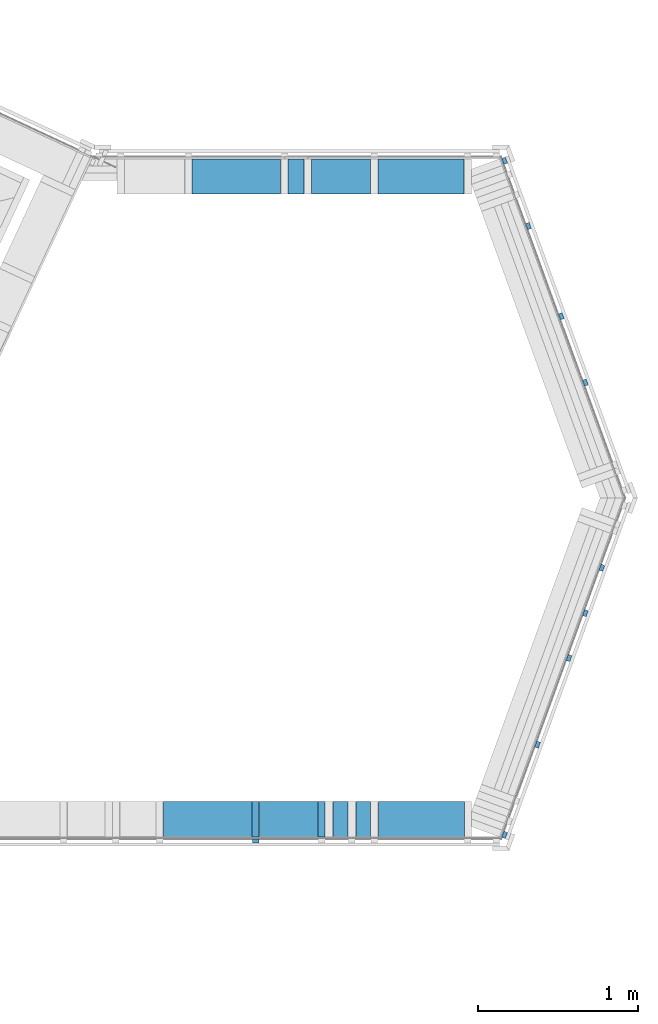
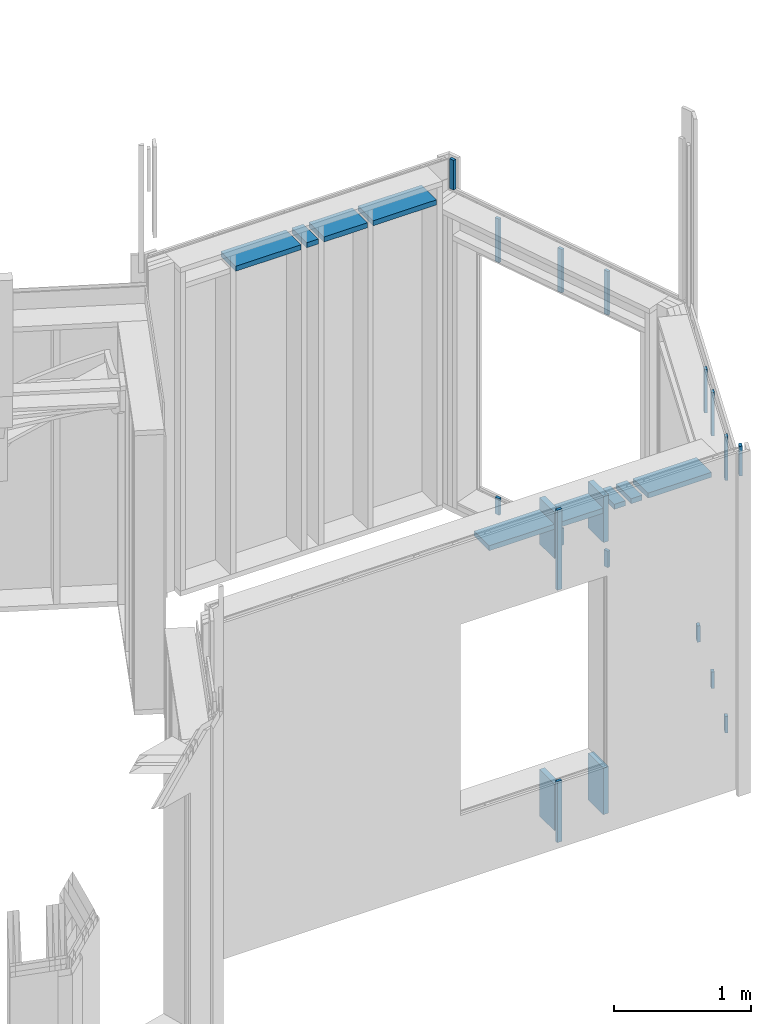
# One storey, part 22 of 34: 29 members.
"""IFC2X3 building model written with IfcOpenShell, lengths in metres."""

from ifc_helpers import new_model, si_unit, direction, frame, origin_with_axes, place, context, subcontext, project, spatial, faceted_brep, material, element, save


model = new_model("IFC2X3")

# Units and contexts
model_context = context("Model", 3, precision=1e-06, world=origin_with_axes(), true_north=direction((0.0, 1.0, 0.0)))
body_context = subcontext(model_context, "Body", "Model", "MODEL_VIEW")
ifc_project = project(units=[si_unit("LENGTHUNIT", "METRE"), si_unit("AREAUNIT", "SQUARE_METRE"), si_unit("VOLUMEUNIT", "CUBIC_METRE"), si_unit("PLANEANGLEUNIT", "RADIAN")], contexts=[model_context])

# Site, building, storey
site_placement = place(None, origin_with_axes())
site = spatial("IfcSite", under=ifc_project, at=site_placement, CompositionType="ELEMENT")
building_placement = place(site_placement, origin_with_axes())
building = spatial("IfcBuilding", under=site, at=building_placement, Name="Building 1", CompositionType="ELEMENT")
storey_placement = place(building_placement, origin_with_axes())
storey = spatial("IfcBuildingStorey", under=building, at=storey_placement, Name="Rez de chaussée", CompositionType="ELEMENT", Elevation=0.0)

# Members
ifc_material = material(Name="Epicéa C24")
member_1_placement = place(storey_placement, frame((16.2708032, -0.33322, 2.975), z_axis=(0.0, -1.0, 0.0), x_axis=(0.0, 0.0, -1.0)))
element("IfcMember", 1, at=member_1_placement, inside=storey, material=ifc_material, Name="latte 27/40", context=body_context, shape_type="Brep", body=[
    faceted_brep([(0.715, -0.02, -0.012), (0.715, -0.02, 0.012), (0.0, -0.02, 0.012), (0.0, -0.02, -0.012), (0.715, 0.02, -0.012), (0.0, 0.02, -0.012), (0.715, 0.02, 0.012), (0.0, 0.02, 0.012)], [[[0, 1, 2, 3]], [[4, 0, 3, 5]], [[6, 4, 5, 7]], [[1, 6, 7, 2]], [[6, 1, 0, 4]], [[2, 7, 5, 3]]]),
])
member_2_placement = place(storey_placement, frame((17.8264634, 3.9151873, 2.98), z_axis=(0.9396926, 0.3420201, 0.0), x_axis=(0.0, 0.0, -1.0)))
element("IfcMember", 2, at=member_2_placement, inside=storey, material=ifc_material, Name="latte chantier", context=body_context, shape_type="Brep", body=[
    faceted_brep([(0.0, 0.02, -0.012), (0.0, -0.02, -0.012), (0.0, -0.02, 0.012), (0.0, 0.02, 0.012), (0.265, -0.02, -0.012), (0.265, -0.02, 0.012), (0.265, 0.02, -0.012), (0.265, 0.02, 0.012)], [[[0, 1, 2, 3]], [[2, 1, 4, 5]], [[1, 0, 6, 4]], [[6, 7, 5, 4]], [[3, 2, 5, 7]], [[0, 3, 7, 6]]]),
])
member_3_placement = place(storey_placement, frame((16.6605365, -0.19822, 2.807), z_axis=(0.0, -1.0, 0.0), x_axis=(-1.0, 0.0, 0.0)))
element("IfcMember", 3, at=member_3_placement, inside=storey, material=ifc_material, Name="Montant", context=body_context, shape_type="Brep", body=[
    faceted_brep([(0.0, 0.0225, -0.11), (0.0, -0.0225, -0.11), (0.0, -0.0225, 0.11), (0.0, 0.0225, 0.11), (0.3642333, -0.0225, -0.11), (0.3642333, -0.0225, 0.11), (0.3642333, 0.0225, -0.11), (0.3642333, 0.0225, 0.11)], [[[0, 1, 2, 3]], [[2, 1, 4, 5]], [[1, 0, 6, 4]], [[5, 4, 6, 7]], [[3, 2, 5, 7]], [[0, 3, 7, 6]]]),
])
member_4_placement = place(storey_placement, frame((17.9747047, 3.5078977, 2.65), z_axis=(0.9396926, 0.3420201, 0.0), x_axis=(0.0, 0.0, -1.0)))
element("IfcMember", 4, at=member_4_placement, inside=storey, material=ifc_material, Name="latte 27/40", context=body_context, shape_type="Brep", body=[
    faceted_brep([(0.39, 0.02, 0.012), (0.39, -0.02, 0.012), (0.39, -0.02, -0.012), (0.39, 0.02, -0.012), (0.0, -0.02, 0.012), (0.0, -0.02, -0.012), (0.0, 0.02, -0.012), (0.0, 0.02, 0.012)], [[[0, 1, 2, 3]], [[2, 1, 4, 5]], [[3, 2, 5, 6]], [[1, 0, 7, 4]], [[4, 7, 6, 5]], [[0, 3, 6, 7]]]),
])
for number, where, z_axis, x_axis, name in (
    (5, (16.6830365, -0.19822, 0.507), (0.0, -1.0, 0.0), (0.0, 0.0, -1.0), "Montant"),
    (6, (16.2708032, -0.19822, 0.507), (0.0, -1.0, 0.0), (0.0, 0.0, -1.0), "Montant"),
):
    element("IfcMember", number, at=place(storey_placement, frame(where, z_axis=z_axis, x_axis=x_axis)), inside=storey, material=ifc_material, Name=name, context=body_context, shape_type="Brep", body=[
        faceted_brep([(0.417, -0.0225, -0.11), (0.417, 0.0225, -0.11), (0.417, 0.0225, 0.11), (0.417, -0.0225, 0.11), (0.0, -0.0225, 0.11), (0.0, -0.0225, -0.11), (0.0, 0.0225, -0.11), (0.0, 0.0225, 0.11)], [[[0, 1, 2, 3]], [[0, 3, 4, 5]], [[1, 0, 5, 6]], [[2, 1, 6, 7]], [[3, 2, 7, 4]], [[4, 7, 6, 5]]]),
    ])
member_5_placement = place(storey_placement, frame((16.6830365, -0.19822, 2.935), z_axis=(0.0, -1.0, 0.0), x_axis=(0.0, 0.0, -1.0)))
element("IfcMember", 7, at=member_5_placement, inside=storey, material=ifc_material, Name="Montant", context=body_context, shape_type="Brep", body=[
    faceted_brep([(0.0, 0.0225, 0.11), (0.0, -0.0225, 0.11), (0.415, -0.0225, 0.11), (0.415, 0.0225, 0.11), (0.415, 0.0225, -0.11), (0.0, 0.0225, -0.11), (0.415, -0.0225, -0.11), (0.0, -0.0225, -0.11)], [[[0, 1, 2, 3]], [[3, 4, 5, 0]], [[4, 6, 7, 5]], [[6, 2, 1, 7]], [[2, 6, 4, 3]], [[1, 0, 5, 7]]]),
])
member_6_placement = place(storey_placement, frame((16.5717756, 3.8177799, 2.807), z_axis=(0.0, -1.0, 0.0), x_axis=(-1.0, 0.0, 0.0)))
element("IfcMember", 8, at=member_6_placement, inside=storey, material=ifc_material, Name="Montant", context=body_context, shape_type="Brep", body=[
    faceted_brep([(0.0975975, -0.0225, 0.11), (0.0975975, -0.0225, -0.11), (0.0975975, 0.0225, -0.11), (0.0975975, 0.0225, 0.11), (0.0, -0.0225, -0.11), (0.0, 0.0225, -0.11), (0.0, -0.0225, 0.11), (0.0, 0.0225, 0.11)], [[[0, 1, 2, 3]], [[2, 1, 4, 5]], [[1, 0, 6, 4]], [[5, 4, 6, 7]], [[3, 2, 5, 7]], [[0, 3, 7, 6]]]),
])
member_7_placement = place(storey_placement, frame((18.3305767, 1.0894122, 2.65), z_axis=(0.9396926, -0.3420201, 0.0), x_axis=(0.0, 0.0, -1.0)))
element("IfcMember", 9, at=member_7_placement, inside=storey, material=ifc_material, Name="latte 27/40", context=body_context, shape_type="Brep", body=[
    faceted_brep([(0.0, -0.02, 0.012), (0.0, 0.02, 0.012), (0.0, 0.02, -0.012), (0.0, -0.02, -0.012), (0.39, -0.02, 0.012), (0.39, 0.02, 0.012), (0.39, -0.02, -0.012), (0.39, 0.02, -0.012)], [[[0, 1, 2, 3]], [[4, 5, 1, 0]], [[6, 4, 0, 3]], [[5, 7, 2, 1]], [[7, 6, 3, 2]], [[5, 4, 6, 7]]]),
])
member_8_placement = place(storey_placement, frame((16.8483032, -0.19822, 2.807), z_axis=(0.0, -1.0, 0.0), x_axis=(-1.0, 0.0, 0.0)))
element("IfcMember", 10, at=member_8_placement, inside=storey, material=ifc_material, Name="Montant", context=body_context, shape_type="Brep", body=[
    faceted_brep([(0.0, -0.0225, 0.11), (0.0, 0.0225, 0.11), (0.0, 0.0225, -0.11), (0.0, -0.0225, -0.11), (0.0947667, 0.0225, 0.11), (0.0947667, 0.0225, -0.11), (0.0947667, -0.0225, 0.11), (0.0947667, -0.0225, -0.11)], [[[0, 1, 2, 3]], [[2, 1, 4, 5]], [[1, 0, 6, 4]], [[5, 4, 6, 7]], [[3, 2, 5, 7]], [[0, 3, 7, 6]]]),
])
member_9_placement = place(storey_placement, frame((16.2708032, -0.19822, 2.935), z_axis=(0.0, -1.0, 0.0), x_axis=(0.0, 0.0, -1.0)))
element("IfcMember", 11, at=member_9_placement, inside=storey, material=ifc_material, Name="Montant", context=body_context, shape_type="Brep", body=[
    faceted_brep([(0.0, 0.0225, 0.11), (0.0, -0.0225, 0.11), (0.415, -0.0225, 0.11), (0.415, 0.0225, 0.11), (0.415, 0.0225, -0.11), (0.0, 0.0225, -0.11), (0.415, -0.0225, -0.11), (0.0, -0.0225, -0.11)], [[[0, 1, 2, 3]], [[3, 4, 5, 0]], [[4, 6, 7, 5]], [[6, 2, 1, 7]], [[2, 6, 4, 3]], [[1, 0, 5, 7]]]),
])
member_10_placement = place(storey_placement, frame((18.1799168, 2.9440821, 2.65), z_axis=(0.9396926, 0.3420201, 0.0), x_axis=(0.0, 0.0, -1.0)))
element("IfcMember", 12, at=member_10_placement, inside=storey, material=ifc_material, Name="latte 27/40", context=body_context, shape_type="Brep", body=[
    faceted_brep([(0.39, 0.02, 0.012), (0.39, -0.02, 0.012), (0.39, -0.02, -0.012), (0.39, 0.02, -0.012), (0.0, -0.02, 0.012), (0.0, -0.02, -0.012), (0.0, 0.02, -0.012), (0.0, 0.02, 0.012)], [[[0, 1, 2, 3]], [[2, 1, 4, 5]], [[3, 2, 5, 6]], [[1, 0, 7, 4]], [[4, 7, 6, 5]], [[0, 3, 6, 7]]]),
])
member_11_placement = place(storey_placement, frame((16.4261781, 3.8177799, 2.807), z_axis=(0.0, -1.0, 0.0), x_axis=(-1.0, 0.0, 0.0)))
element("IfcMember", 13, at=member_11_placement, inside=storey, material=ifc_material, Name="Montant", context=body_context, shape_type="Brep", body=[
    faceted_brep([(0.552, 0.0225, -0.11), (0.552, 0.0225, 0.11), (0.552, -0.0225, 0.11), (0.552, -0.0225, -0.11), (0.0, 0.0225, 0.11), (0.0, -0.0225, 0.11), (0.0, 0.0225, -0.11), (0.0, -0.0225, -0.11)], [[[0, 1, 2, 3]], [[2, 1, 4, 5]], [[1, 0, 6, 4]], [[5, 4, 6, 7]], [[3, 2, 5, 7]], [[0, 3, 7, 6]]]),
])
member_12_placement = place(storey_placement, frame((17.5713251, 3.8177799, 2.807), z_axis=(0.0, -1.0, 0.0), x_axis=(-1.0, 0.0, 0.0)))
element("IfcMember", 14, at=member_12_placement, inside=storey, material=ifc_material, Name="Montant", context=body_context, shape_type="Brep", body=[
    faceted_brep([(0.536609, -0.0225, 0.11), (0.536609, -0.0225, -0.11), (0.536609, 0.0225, -0.11), (0.536609, 0.0225, 0.11), (0.0, -0.0225, -0.11), (0.0, 0.0225, -0.11), (0.0, -0.0225, 0.11), (0.0, 0.0225, 0.11)], [[[0, 1, 2, 3]], [[2, 1, 4, 5]], [[1, 0, 6, 4]], [[3, 2, 5, 7]], [[0, 3, 7, 6]], [[6, 7, 5, 4]]]),
])
member_13_placement = place(storey_placement, frame((18.2285081, 0.8089812, 0.152), z_axis=(0.9396926, -0.3420201, 0.0), x_axis=(0.0, 0.0, -1.0)))
element("IfcMember", 15, at=member_13_placement, inside=storey, material=ifc_material, Name="latte 27/40", context=body_context, shape_type="Brep", body=[
    faceted_brep([(0.0, -0.02, 0.012), (0.0, 0.02, 0.012), (0.0, 0.02, -0.012), (0.0, -0.02, -0.012), (0.147, 0.02, -0.012), (0.147, -0.02, -0.012), (0.147, 0.02, 0.012), (0.147, -0.02, 0.012)], [[[0, 1, 2, 3]], [[3, 2, 4, 5]], [[2, 1, 6, 4]], [[1, 0, 7, 6]], [[6, 7, 5, 4]], [[0, 3, 5, 7]]]),
])
member_14_placement = place(storey_placement, frame((16.986716, 3.8177799, 2.807), z_axis=(0.0, -1.0, 0.0), x_axis=(-1.0, 0.0, 0.0)))
element("IfcMember", 16, at=member_14_placement, inside=storey, material=ifc_material, Name="Montant", context=body_context, shape_type="Brep", body=[
    faceted_brep([(0.3669404, 0.0225, -0.11), (0.3669404, 0.0225, 0.11), (0.3669404, -0.0225, 0.11), (0.3669404, -0.0225, -0.11), (0.0, 0.0225, 0.11), (0.0, -0.0225, 0.11), (0.0, 0.0225, -0.11), (0.0, -0.0225, -0.11)], [[[0, 1, 2, 3]], [[2, 1, 4, 5]], [[1, 0, 6, 4]], [[5, 4, 6, 7]], [[3, 2, 5, 7]], [[0, 3, 7, 6]]]),
])
member_15_placement = place(storey_placement, frame((17.5743251, -0.19822, 2.807), z_axis=(0.0, -1.0, 0.0), x_axis=(-1.0, 0.0, 0.0)))
element("IfcMember", 17, at=member_15_placement, inside=storey, material=ifc_material, Name="Montant", context=body_context, shape_type="Brep", body=[
    faceted_brep([(0.0, -0.0225, 0.11), (0.0, 0.0225, 0.11), (0.0, 0.0225, -0.11), (0.0, -0.0225, -0.11), (0.5366091, 0.0225, 0.11), (0.5366091, 0.0225, -0.11), (0.536609, -0.0225, 0.11), (0.5366091, -0.0225, -0.11)], [[[0, 1, 2, 3]], [[2, 1, 4, 5]], [[1, 0, 6, 4]], [[5, 4, 6, 7]], [[3, 2, 5, 7]], [[0, 3, 7, 6]]]),
])
member_16_placement = place(storey_placement, frame((16.2483032, -0.19822, 2.807), z_axis=(0.0, -1.0, 0.0), x_axis=(-1.0, 0.0, 0.0)))
element("IfcMember", 18, at=member_16_placement, inside=storey, material=ifc_material, Name="Montant", context=body_context, shape_type="Brep", body=[
    faceted_brep([(0.552, 0.0225, -0.11), (0.552, 0.0225, 0.11), (0.552, -0.0225, 0.11), (0.552, -0.0225, -0.11), (0.0, 0.0225, 0.11), (0.0, -0.0225, 0.11), (0.0, 0.0225, -0.11), (0.0, -0.0225, -0.11)], [[[0, 1, 2, 3]], [[2, 1, 4, 5]], [[1, 0, 6, 4]], [[5, 4, 6, 7]], [[3, 2, 5, 7]], [[0, 3, 7, 6]]]),
])
member_17_placement = place(storey_placement, frame((16.989716, -0.19822, 2.807), z_axis=(0.0, -1.0, 0.0), x_axis=(-1.0, 0.0, 0.0)))
element("IfcMember", 19, at=member_17_placement, inside=storey, material=ifc_material, Name="Montant", context=body_context, shape_type="Brep", body=[
    faceted_brep([(0.0, 0.0225, -0.11), (0.0, -0.0225, -0.11), (0.0, -0.0225, 0.11), (0.0, 0.0225, 0.11), (0.0934128, -0.0225, -0.11), (0.0934128, -0.0225, 0.11), (0.0934128, 0.0225, -0.11), (0.0934128, 0.0225, 0.11)], [[[0, 1, 2, 3]], [[2, 1, 4, 5]], [[1, 0, 6, 4]], [[5, 4, 6, 7]], [[3, 2, 5, 7]], [[0, 3, 7, 6]]]),
])
member_18_placement = place(storey_placement, frame((18.3305767, 2.5301475, 0.152), z_axis=(0.9396926, 0.3420201, 0.0), x_axis=(0.0, 0.0, -1.0)))
element("IfcMember", 20, at=member_18_placement, inside=storey, material=ifc_material, Name="latte 27/40", context=body_context, shape_type="Brep", body=[
    faceted_brep([(0.147, 0.02, 0.012), (0.147, -0.02, 0.012), (0.147, -0.02, -0.012), (0.147, 0.02, -0.012), (0.0, 0.02, 0.012), (0.0, -0.02, 0.012), (0.0, 0.02, -0.012), (0.0, -0.02, -0.012)], [[[0, 1, 2, 3]], [[4, 5, 1, 0]], [[6, 4, 0, 3]], [[7, 6, 3, 2]], [[5, 7, 2, 1]], [[5, 4, 6, 7]]]),
])
for number, where, z_axis, x_axis, name in (
    (21, (18.4337202, 1.3727968, 0.152), (0.9396926, -0.3420201, 0.0), (0.0, 0.0, -1.0), "latte 27/40"),
    (22, (18.0316755, 0.2681881, 0.152), (0.9396926, -0.3420201, 0.0), (0.0, 0.0, -1.0), "latte 27/40"),
):
    element("IfcMember", number, at=place(storey_placement, frame(where, z_axis=z_axis, x_axis=x_axis)), inside=storey, material=ifc_material, Name=name, context=body_context, shape_type="Brep", body=[
        faceted_brep([(0.0, -0.02, 0.012), (0.0, 0.02, 0.012), (0.0, 0.02, -0.012), (0.0, -0.02, -0.012), (0.147, 0.02, -0.012), (0.147, -0.02, -0.012), (0.147, 0.02, 0.012), (0.147, -0.02, 0.012)], [[[0, 1, 2, 3]], [[3, 2, 4, 5]], [[2, 1, 6, 4]], [[1, 0, 7, 6]], [[6, 7, 5, 4]], [[0, 3, 5, 7]]]),
    ])
member_19_placement = place(storey_placement, frame((18.3305767, 2.5301475, 2.65), z_axis=(0.9396926, 0.3420201, 0.0), x_axis=(0.0, 0.0, -1.0)))
element("IfcMember", 23, at=member_19_placement, inside=storey, material=ifc_material, Name="latte 27/40", context=body_context, shape_type="Brep", body=[
    faceted_brep([(0.39, 0.02, 0.012), (0.39, -0.02, 0.012), (0.39, -0.02, -0.012), (0.39, 0.02, -0.012), (0.0, -0.02, 0.012), (0.0, -0.02, -0.012), (0.0, 0.02, -0.012), (0.0, 0.02, 0.012)], [[[0, 1, 2, 3]], [[2, 1, 4, 5]], [[3, 2, 5, 6]], [[1, 0, 7, 4]], [[4, 7, 6, 5]], [[0, 3, 6, 7]]]),
])
member_20_placement = place(storey_placement, frame((17.8264634, -0.2956275, 2.98), z_axis=(0.9396926, -0.3420201, 0.0), x_axis=(0.0, 0.0, -1.0)))
element("IfcMember", 24, at=member_20_placement, inside=storey, material=ifc_material, Name="latte chantier", context=body_context, shape_type="Brep", body=[
    faceted_brep([(0.0, 0.02, -0.012), (0.0, -0.02, -0.012), (0.0, -0.02, 0.012), (0.0, 0.02, 0.012), (0.265, -0.02, -0.012), (0.265, -0.02, 0.012), (0.265, 0.02, -0.012), (0.265, 0.02, 0.012)], [[[0, 1, 2, 3]], [[2, 1, 4, 5]], [[1, 0, 6, 4]], [[6, 7, 5, 4]], [[3, 2, 5, 7]], [[0, 3, 7, 6]]]),
])
for number, where, z_axis, x_axis, name in (
    (25, (18.1799168, 2.9440821, 0.152), (0.9396926, 0.3420201, 0.0), (0.0, 0.0, -1.0), "latte 27/40"),
    (26, (17.9747047, 3.5078977, 0.152), (0.9396926, 0.3420201, 0.0), (0.0, 0.0, -1.0), "latte 27/40"),
):
    element("IfcMember", number, at=place(storey_placement, frame(where, z_axis=z_axis, x_axis=x_axis)), inside=storey, material=ifc_material, Name=name, context=body_context, shape_type="Brep", body=[
        faceted_brep([(0.147, 0.02, 0.012), (0.147, -0.02, 0.012), (0.147, -0.02, -0.012), (0.147, 0.02, -0.012), (0.0, 0.02, 0.012), (0.0, -0.02, 0.012), (0.0, 0.02, -0.012), (0.0, -0.02, -0.012)], [[[0, 1, 2, 3]], [[4, 5, 1, 0]], [[6, 4, 0, 3]], [[7, 6, 3, 2]], [[5, 7, 2, 1]], [[5, 4, 6, 7]]]),
    ])
member_21_placement = place(storey_placement, frame((16.2708032, -0.33322, 0.552), z_axis=(0.0, -1.0, 0.0), x_axis=(0.0, 0.0, -1.0)))
element("IfcMember", 27, at=member_21_placement, inside=storey, material=ifc_material, Name="latte 27/40", context=body_context, shape_type="Brep", body=[
    faceted_brep([(0.547, 0.02, 0.012), (0.547, -0.02, 0.012), (0.547, -0.02, -0.012), (0.547, 0.02, -0.012), (0.0, 0.02, 0.012), (0.0, -0.02, 0.012), (0.0, 0.02, -0.012), (0.0, -0.02, -0.012)], [[[0, 1, 2, 3]], [[4, 5, 1, 0]], [[6, 4, 0, 3]], [[7, 6, 3, 2]], [[5, 7, 2, 1]], [[5, 4, 6, 7]]]),
])
for number, where, z_axis, x_axis, name in (
    (28, (18.2285081, 0.8089812, 2.65), (0.9396926, -0.3420201, 0.0), (0.0, 0.0, -1.0), "latte 27/40"),
    (29, (18.0316755, 0.2681881, 2.65), (0.9396926, -0.3420201, 0.0), (0.0, 0.0, -1.0), "latte 27/40"),
):
    element("IfcMember", number, at=place(storey_placement, frame(where, z_axis=z_axis, x_axis=x_axis)), inside=storey, material=ifc_material, Name=name, context=body_context, shape_type="Brep", body=[
        faceted_brep([(0.0, -0.02, 0.012), (0.0, 0.02, 0.012), (0.0, 0.02, -0.012), (0.0, -0.02, -0.012), (0.39, -0.02, 0.012), (0.39, 0.02, 0.012), (0.39, -0.02, -0.012), (0.39, 0.02, -0.012)], [[[0, 1, 2, 3]], [[4, 5, 1, 0]], [[6, 4, 0, 3]], [[5, 7, 2, 1]], [[7, 6, 3, 2]], [[5, 4, 6, 7]]]),
    ])

save(model, "model.ifc")
